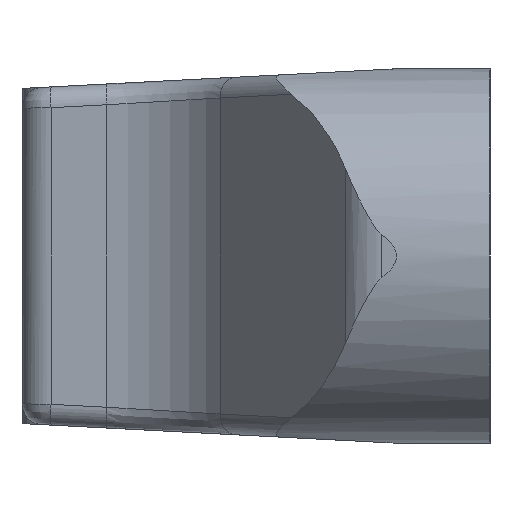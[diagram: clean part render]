
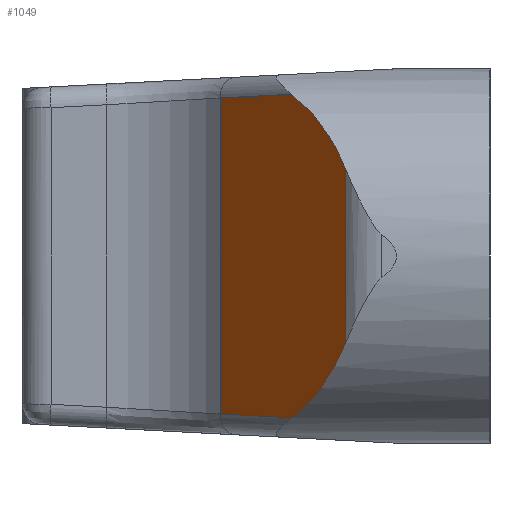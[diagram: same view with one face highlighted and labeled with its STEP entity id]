
A CAD part, left-side view. The second image highlights one B-rep face of the part: STEP entity #1049.
In plain terms, the highlighted planar face has unit normal (-0.602, 0.798, 0).
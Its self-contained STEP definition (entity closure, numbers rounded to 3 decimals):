
#16 = LINE ( 'NONE', #4287, #3523 ) ;
#45 = CARTESIAN_POINT ( 'NONE',  ( 9.037, 8.476, 7.596 ) ) ;
#48 = VERTEX_POINT ( 'NONE', #45 ) ;
#69 = CARTESIAN_POINT ( 'NONE',  ( 1.021, 2.431, -4.163 ) ) ;
#87 = EDGE_CURVE ( 'NONE', #2056, #6746, #8516, .T. ) ;
#293 = CARTESIAN_POINT ( 'NONE',  ( 9.037, 8.476, -7.596 ) ) ;
#300 =( BOUNDED_CURVE ( )  B_SPLINE_CURVE ( 3, ( #2529, #2562, #8192, #3990 ),
 .UNSPECIFIED., .F., .T. ) 
 B_SPLINE_CURVE_WITH_KNOTS ( ( 4, 4 ),
 ( 0.481, 1.043 ),
 .UNSPECIFIED. ) 
 CURVE ( )  GEOMETRIC_REPRESENTATION_ITEM ( )  RATIONAL_B_SPLINE_CURVE ( ( 1., 0.974, 0.974, 1. ) ) 
 REPRESENTATION_ITEM ( '' )  );
#402 = VECTOR ( 'NONE', #8009, 1000. ) ;
#930 = DIRECTION ( 'NONE',  ( 0., 0., -1. ) ) ;
#1049 = ADVANCED_FACE ( 'NONE', ( #7249 ), #6181, .F. ) ;
#1305 =( BOUNDED_CURVE ( )  B_SPLINE_CURVE ( 3, ( #1623, #5824, #2326, #7218 ),
 .UNSPECIFIED., .F., .T. ) 
 B_SPLINE_CURVE_WITH_KNOTS ( ( 4, 4 ),
 ( 5.24, 5.802 ),
 .UNSPECIFIED. ) 
 CURVE ( )  GEOMETRIC_REPRESENTATION_ITEM ( )  RATIONAL_B_SPLINE_CURVE ( ( 1., 0.974, 0.974, 1. ) ) 
 REPRESENTATION_ITEM ( '' )  );
#1372 = CARTESIAN_POINT ( 'NONE',  ( 4.47, 5.032, 7.777 ) ) ;
#1623 = CARTESIAN_POINT ( 'NONE',  ( 4.47, 5.032, 7.777 ) ) ;
#2056 = VERTEX_POINT ( 'NONE', #6107 ) ;
#2326 = CARTESIAN_POINT ( 'NONE',  ( 1.812, 3.028, 5.679 ) ) ;
#2437 = CARTESIAN_POINT ( 'NONE',  ( 9.013, 8.458, 7.597 ) ) ;
#2529 = CARTESIAN_POINT ( 'NONE',  ( 1.021, 2.431, -4.163 ) ) ;
#2562 = CARTESIAN_POINT ( 'NONE',  ( 1.812, 3.028, -5.679 ) ) ;
#2908 = VECTOR ( 'NONE', #6628, 1000. ) ;
#3292 = VERTEX_POINT ( 'NONE', #69 ) ;
#3365 = EDGE_CURVE ( 'NONE', #48, #6746, #16, .T. ) ;
#3523 = VECTOR ( 'NONE', #930, 1000. ) ;
#3867 = CARTESIAN_POINT ( 'NONE',  ( 6.507, 6.568, -7.696 ) ) ;
#3983 = ORIENTED_EDGE ( 'NONE', *, *, #5441, .F. ) ;
#3990 = CARTESIAN_POINT ( 'NONE',  ( 4.47, 5.032, -7.777 ) ) ;
#4190 = EDGE_LOOP ( 'NONE', ( #8720, #4660, #6171, #4555, #5213, #3983 ) ) ;
#4287 = CARTESIAN_POINT ( 'NONE',  ( 9.037, 8.476, 9. ) ) ;
#4555 = ORIENTED_EDGE ( 'NONE', *, *, #87, .F. ) ;
#4573 = VECTOR ( 'NONE', #4909, 1000. ) ;
#4586 = VERTEX_POINT ( 'NONE', #6148 ) ;
#4660 = ORIENTED_EDGE ( 'NONE', *, *, #5721, .F. ) ;
#4909 = DIRECTION ( 'NONE',  ( 0., 0., -1. ) ) ;
#5213 = ORIENTED_EDGE ( 'NONE', *, *, #7443, .F. ) ;
#5382 = VERTEX_POINT ( 'NONE', #1372 ) ;
#5441 = EDGE_CURVE ( 'NONE', #4586, #3292, #6404, .T. ) ;
#5721 = EDGE_CURVE ( 'NONE', #48, #5382, #5968, .T. ) ;
#5824 = CARTESIAN_POINT ( 'NONE',  ( 2.992, 3.918, 6.916 ) ) ;
#5968 = LINE ( 'NONE', #2437, #402 ) ;
#5969 = DIRECTION ( 'NONE',  ( 0.798, 0.602, 0. ) ) ;
#6107 = CARTESIAN_POINT ( 'NONE',  ( 4.47, 5.032, -7.777 ) ) ;
#6148 = CARTESIAN_POINT ( 'NONE',  ( 1.021, 2.431, 4.163 ) ) ;
#6171 = ORIENTED_EDGE ( 'NONE', *, *, #3365, .T. ) ;
#6181 = PLANE ( 'NONE',  #7496 ) ;
#6404 = LINE ( 'NONE', #8395, #4573 ) ;
#6628 = DIRECTION ( 'NONE',  ( 0.798, 0.602, 0.032 ) ) ;
#6746 = VERTEX_POINT ( 'NONE', #293 ) ;
#7145 = CARTESIAN_POINT ( 'NONE',  ( 9.037, 8.476, 9. ) ) ;
#7218 = CARTESIAN_POINT ( 'NONE',  ( 1.021, 2.431, 4.163 ) ) ;
#7249 = FACE_OUTER_BOUND ( 'NONE', #4190, .T. ) ;
#7278 = DIRECTION ( 'NONE',  ( 0.602, -0.798, 0. ) ) ;
#7443 = EDGE_CURVE ( 'NONE', #3292, #2056, #300, .T. ) ;
#7496 = AXIS2_PLACEMENT_3D ( 'NONE', #7145, #7278, #5969 ) ;
#7705 = EDGE_CURVE ( 'NONE', #5382, #4586, #1305, .T. ) ;
#8009 = DIRECTION ( 'NONE',  ( -0.798, -0.602, 0.032 ) ) ;
#8192 = CARTESIAN_POINT ( 'NONE',  ( 2.992, 3.918, -6.916 ) ) ;
#8395 = CARTESIAN_POINT ( 'NONE',  ( 1.021, 2.431, 9. ) ) ;
#8516 = LINE ( 'NONE', #3867, #2908 ) ;
#8720 = ORIENTED_EDGE ( 'NONE', *, *, #7705, .F. ) ;
